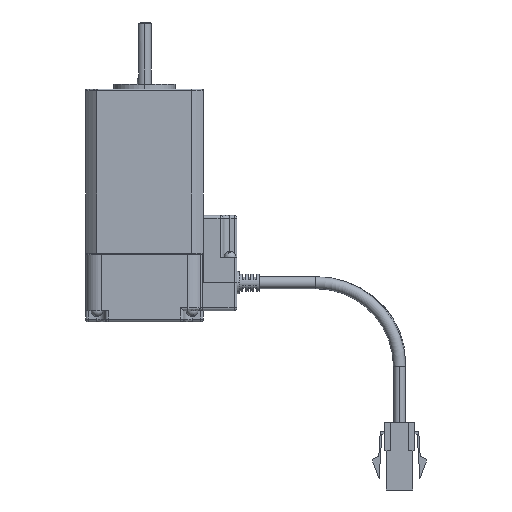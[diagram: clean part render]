
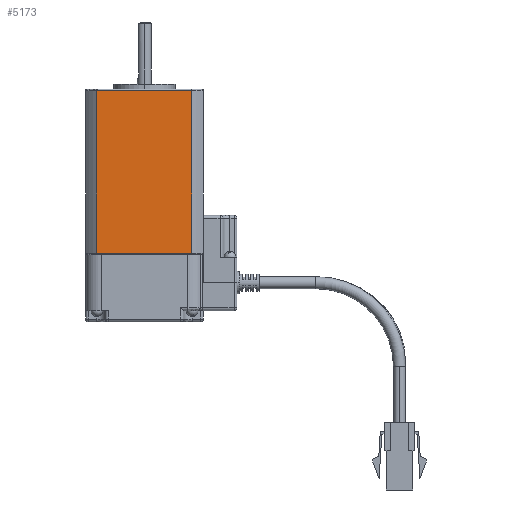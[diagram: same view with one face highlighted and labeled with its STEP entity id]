
A CAD part, left-side view. The second image highlights one B-rep face of the part: STEP entity #5173.
In plain terms, the highlighted planar face has unit normal (-1, 0, 0).
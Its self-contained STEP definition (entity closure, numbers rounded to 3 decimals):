
#329 = CARTESIAN_POINT ( 'NONE',  ( -16.487, 301.233, 29.5 ) ) ;
#347 = DIRECTION ( 'NONE',  ( 0., 0., -1. ) ) ;
#477 = CARTESIAN_POINT ( 'NONE',  ( -16.487, 318.203, 0.5 ) ) ;
#481 = DIRECTION ( 'NONE',  ( 0., -1., 0. ) ) ;
#489 = CARTESIAN_POINT ( 'NONE',  ( -16.487, 335.174, 29.5 ) ) ;
#490 = DIRECTION ( 'NONE',  ( 0., 0., -1. ) ) ;
#651 = CARTESIAN_POINT ( 'NONE',  ( -16.487, 318.203, 58.5 ) ) ;
#654 = DIRECTION ( 'NONE',  ( 0., 1., 0. ) ) ;
#1624 = CARTESIAN_POINT ( 'NONE',  ( -16.487, 335.174, 0.5 ) ) ;
#4979 = EDGE_CURVE ( 'NONE', #20752, #20820, #13767, .T. ) ;
#5010 = EDGE_CURVE ( 'NONE', #21064, #20820, #13835, .T. ) ;
#5012 = EDGE_CURVE ( 'NONE', #20753, #21064, #13839, .T. ) ;
#5016 = EDGE_CURVE ( 'NONE', #20752, #20753, #13841, .T. ) ;
#5173 = ADVANCED_FACE ( 'NONE', ( #12712 ), #15563, .T. ) ;
#6632 = ORIENTED_EDGE ( 'NONE', *, *, #5010, .T. ) ;
#6633 = ORIENTED_EDGE ( 'NONE', *, *, #4979, .F. ) ;
#6634 = ORIENTED_EDGE ( 'NONE', *, *, #5016, .T. ) ;
#6635 = ORIENTED_EDGE ( 'NONE', *, *, #5012, .T. ) ;
#11058 = AXIS2_PLACEMENT_3D ( 'NONE', #15559, #15567, #15568 ) ;
#12712 = FACE_OUTER_BOUND ( 'NONE', #21672, .T. ) ;
#13767 = LINE ( 'NONE', #329, #13771 ) ;
#13771 = VECTOR ( 'NONE', #347, 1000. ) ;
#13827 = VECTOR ( 'NONE', #490, 1000. ) ;
#13835 = LINE ( 'NONE', #477, #13837 ) ;
#13837 = VECTOR ( 'NONE', #481, 1000. ) ;
#13839 = LINE ( 'NONE', #489, #13827 ) ;
#13841 = LINE ( 'NONE', #651, #13847 ) ;
#13847 = VECTOR ( 'NONE', #654, 1000. ) ;
#15559 = CARTESIAN_POINT ( 'NONE',  ( -16.487, 335.174, 0. ) ) ;
#15563 = PLANE ( 'NONE',  #11058 ) ;
#15567 = DIRECTION ( 'NONE',  ( -1., 0., 0. ) ) ;
#15568 = DIRECTION ( 'NONE',  ( 0., -1., 0. ) ) ;
#18341 = CARTESIAN_POINT ( 'NONE',  ( -16.487, 301.233, 58.5 ) ) ;
#18342 = CARTESIAN_POINT ( 'NONE',  ( -16.487, 335.174, 58.5 ) ) ;
#18409 = CARTESIAN_POINT ( 'NONE',  ( -16.487, 301.233, 0.5 ) ) ;
#20752 = VERTEX_POINT ( 'NONE', #18341 ) ;
#20753 = VERTEX_POINT ( 'NONE', #18342 ) ;
#20820 = VERTEX_POINT ( 'NONE', #18409 ) ;
#21064 = VERTEX_POINT ( 'NONE', #1624 ) ;
#21672 = EDGE_LOOP ( 'NONE', ( #6632, #6633, #6634, #6635 ) ) ;
